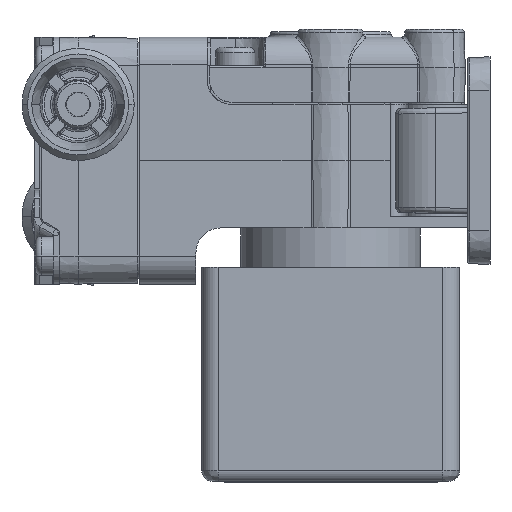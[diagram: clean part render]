
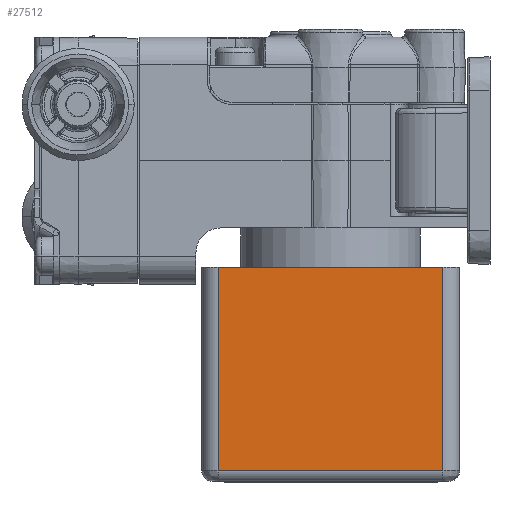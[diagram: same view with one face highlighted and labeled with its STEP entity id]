
A CAD part, left-side view. The second image highlights one B-rep face of the part: STEP entity #27512.
In plain terms, the highlighted planar face has unit normal (-1, 0, 0).
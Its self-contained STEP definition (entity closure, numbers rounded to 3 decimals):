
#9824=DIRECTION('',(0.,1.,0.));
#9825=VECTOR('',#9824,20.);
#9826=CARTESIAN_POINT('',(-12.,-10.,-9.5));
#9827=LINE('',#9826,#9825);
#10190=DIRECTION('',(0.,1.,0.));
#10191=VECTOR('',#10190,20.);
#10192=CARTESIAN_POINT('',(-12.,-10.,-27.6));
#10193=LINE('',#10192,#10191);
#10197=DIRECTION('',(0.,0.,1.));
#10198=VECTOR('',#10197,18.1);
#10199=CARTESIAN_POINT('',(-12.,10.,-27.6));
#10200=LINE('',#10199,#10198);
#10228=DIRECTION('',(0.,0.,1.));
#10229=VECTOR('',#10228,18.1);
#10230=CARTESIAN_POINT('',(-12.,-10.,-27.6));
#10231=LINE('',#10230,#10229);
#14719=CARTESIAN_POINT('',(-12.,10.,-9.5));
#14720=VERTEX_POINT('',#14719);
#14721=CARTESIAN_POINT('',(-12.,-10.,-9.5));
#14722=VERTEX_POINT('',#14721);
#14729=CARTESIAN_POINT('',(-12.,10.,-27.6));
#14731=VERTEX_POINT('',#14729);
#14755=CARTESIAN_POINT('',(-12.,-10.,-27.6));
#14756=VERTEX_POINT('',#14755);
#27499=CARTESIAN_POINT('',(-12.,10.,-9.5));
#27500=DIRECTION('',(-1.,0.,0.));
#27501=DIRECTION('',(0.,-1.,0.));
#27502=AXIS2_PLACEMENT_3D('',#27499,#27500,#27501);
#27503=PLANE('',#27502);
#27505=ORIENTED_EDGE('',*,*,#27504,.T.);
#27506=ORIENTED_EDGE('',*,*,#27487,.T.);
#27507=ORIENTED_EDGE('',*,*,#27153,.F.);
#27509=ORIENTED_EDGE('',*,*,#27508,.F.);
#27510=EDGE_LOOP('',(#27505,#27506,#27507,#27509));
#27511=FACE_OUTER_BOUND('',#27510,.F.);
#27153=EDGE_CURVE('',#14722,#14720,#9827,.T.);
#27487=EDGE_CURVE('',#14731,#14720,#10200,.T.);
#27504=EDGE_CURVE('',#14756,#14731,#10193,.T.);
#27508=EDGE_CURVE('',#14756,#14722,#10231,.T.);
#27512=ADVANCED_FACE('',(#27511),#27503,.T.);
